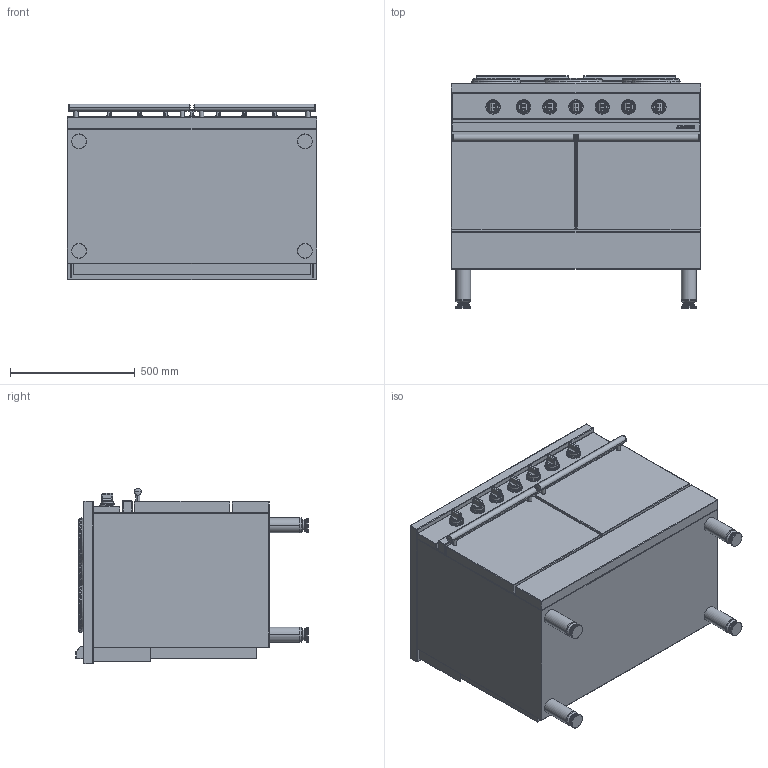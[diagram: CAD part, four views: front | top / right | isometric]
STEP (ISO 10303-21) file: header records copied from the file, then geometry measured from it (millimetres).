
FILE_DESCRIPTION((''),'2;1');
FILE_NAME('CE1052P_EXPORT_STEP_ASM','2017-11-22T',('r.avril'),(''),'PRO/ENGINEER BY PARAMETRIC TECHNOLOGY CORPORATION, 2014200','PRO/ENGINEER BY PARAMETRIC TECHNOLOGY CORPORATION, 2014200','');
FILE_SCHEMA(('AP203_CONFIGURATION_CONTROLLED_3D_DESIGN_OF_MECHANICAL_PARTS_AND_ASSEMBLIES_MIM_LF { 1 0 10303 403 2 1 2 }'));
Length unit declared in the file: millimetre
Products named in the file (5): FOURNEAUX_AMB_1052_EXPORT_STEP; TABLE_1000_PLQ_ELEC; TABLE_1000_PLQ_ELEC_ASM; MANETTE_AMB_EXPORT_STEP; CE1052P_EXPORT_STEP_ASM
Assembly tree (10 placements, depth 3):
  CE1052P_EXPORT_STEP_ASM
    FOURNEAUX_AMB_1052_EXPORT_STEP
    TABLE_1000_PLQ_ELEC_ASM
      TABLE_1000_PLQ_ELEC
    MANETTE_AMB_EXPORT_STEP  x7
Bounding box: 1000 x 930 x 703 mm (x, y, z)
Volume: 464646897.7 mm3; surface area: 7480761.8 mm2
Topology: 34 solids, 52 shells, 814 faces, 2385 edges, 1912 vertices
Faces by surface type: plane 234, cylinder 204, torus 114, cone 92, sphere 86, bspline 84
Entity records: 24507 total; most frequent: CARTESIAN_POINT 6147, DIRECTION 3175, ORIENTED_EDGE 2582, EDGE_CURVE 1515, AXIS2_PLACEMENT_3D 1211, VERTEX_POINT 1066, VECTOR 738, LINE 738
